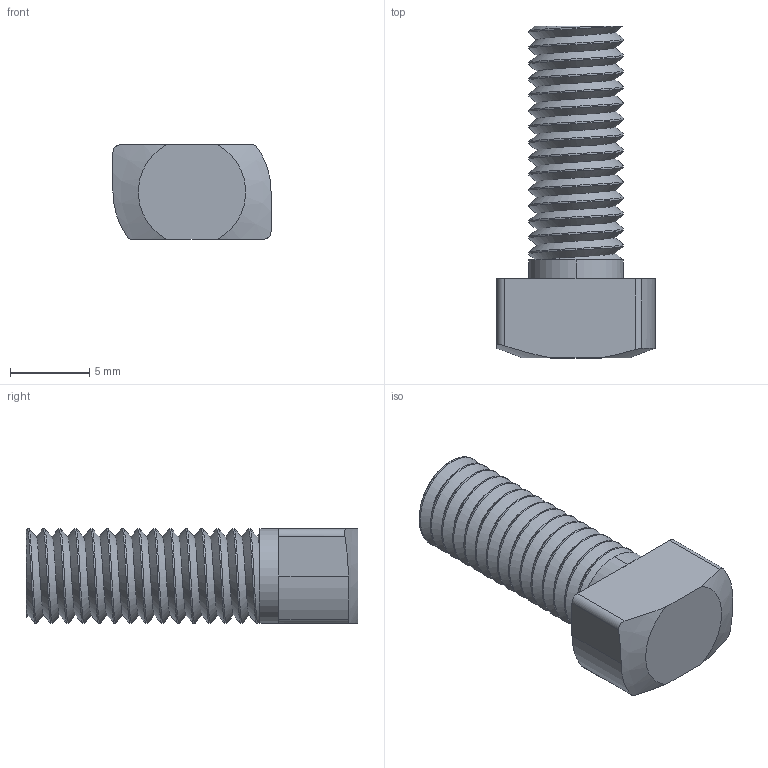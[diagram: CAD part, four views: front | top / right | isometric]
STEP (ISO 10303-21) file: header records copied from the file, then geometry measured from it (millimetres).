
FILE_DESCRIPTION (( 'STEP AP203' ), '1' );
FILE_NAME ('115-CE-TS-30G.STEP', '2015-07-09T08:46:02', ( '' ), ( '' ), 'SwSTEP 2.0', 'SolidWorks 2013', '' );
FILE_SCHEMA (( 'CONFIG_CONTROL_DESIGN' ));
Length unit declared in the file: millimetre
Products named in the file (1): 115-CE-TS-30G
Bounding box: 10 x 21 x 6 mm (x, y, z)
Volume: 671.8 mm3; surface area: 660.2 mm2
Topology: 1 solids, 1 shells, 51 faces, 143 edges, 94 vertices
Faces by surface type: cylinder 38, plane 9, bspline 2, cone 2
Entity records: 3467 total; most frequent: CARTESIAN_POINT 2286, ORIENTED_EDGE 286, DIRECTION 180, EDGE_CURVE 143, VERTEX_POINT 94, AXIS2_PLACEMENT_3D 65, EDGE_LOOP 51, FACE_OUTER_BOUND 51
